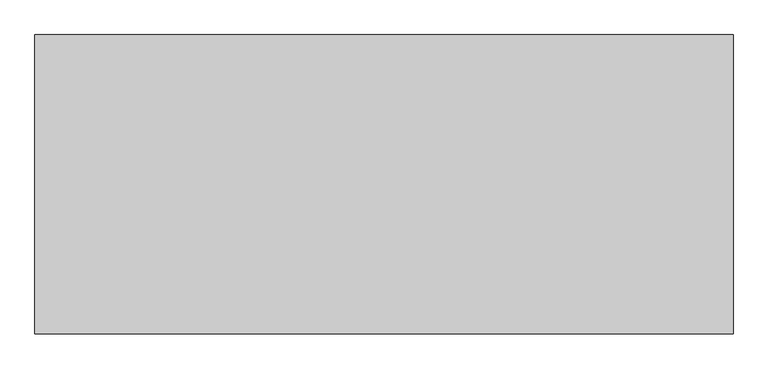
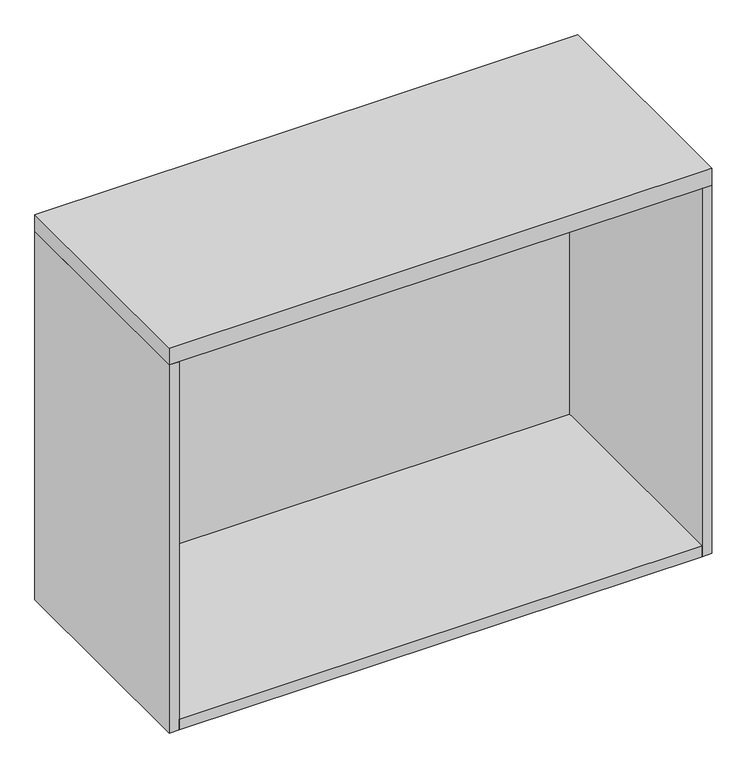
"""IFC4 building model written with IfcOpenShell, lengths in millimetres: furniture geometry, Steelcase - 900 Series - Storage - Overfile Cabinet - Flush Steel : Open - 42W x 31 1/2H."""

from ifc_helpers import new_model, si_unit, frame, origin, place, context, project, spatial, polyline, outline, extrude, source, transform, mapped, element, save


def furniture_7cb9e232(model_context):
    return source(origin(), model_context, "Body", "SweptSolid", [
        extrude(outline(polyline([(1047.4960184, -6.3500002), (1047.4960184, -457.2), (19.3039998, -457.2), (19.3039998, -6.3500002), (1047.4960184, -6.3500002)])), frame((0.0, 0.0, 1246.378), z_axis=(0.0, 0.0, 1.0), x_axis=(1.0, 0.0, 0.0)), (0.0, 0.0, 1.0), 22.2249516),
        extrude(outline(polyline([(1066.8, 0.0), (1066.8, -457.2), (0.0, -457.2), (0.0, 0.0), (1066.8, 0.0)])), frame((0.0, 0.0, 2011.5529516), z_axis=(0.0, 0.0, 1.0), x_axis=(1.0, 0.0, 0.0)), (0.0, 0.0, 1.0), 34.9250484),
        extrude(outline(polyline([(1047.4960184, -6.3500002), (19.3039998, -6.3500002), (19.3039998, -457.2), (0.0, -457.2), (0.0, 0.0), (1066.8, 0.0), (1066.8, -457.2), (1047.4960184, -457.2), (1047.4960184, -6.3500002)])), frame((0.0, 0.0, 1246.378), z_axis=(0.0, 0.0, 1.0), x_axis=(1.0, 0.0, 0.0)), (0.0, 0.0, 1.0), 765.1749516),
    ])


if __name__ == "__main__":
    model = new_model("IFC4")
    model_context = context("Model", 3, world=origin())
    ifc_project = project(units=[si_unit("LENGTHUNIT", "METRE", prefix="MILLI")], contexts=[model_context])
    site = spatial("IfcSite", under=ifc_project)
    building = spatial("IfcBuilding", under=site)
    placement = place(None, origin())
    furniture_shape = furniture_7cb9e232(model_context)
    element("IfcFurniture", 1, ObjectType="Steelcase - 900 Series - Storage - Overfile Cabinet - Flush Steel : Open - 42W x 31 1/2H", at=placement, inside=building, context=model_context, shape_type="MappedRepresentation", body=[
        mapped(furniture_shape, transform((0.0, 0.0, 0.0), x_axis=(1.0, 0.0, 0.0), y_axis=(0.0, 1.0, 0.0), z_axis=(0.0, 0.0, 1.0))),
    ])
    save(model, "model.ifc")
